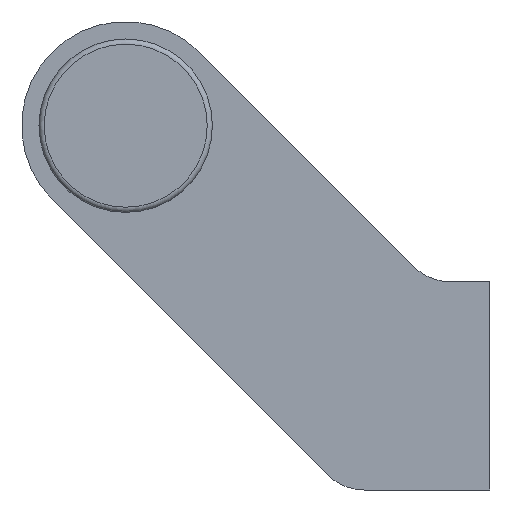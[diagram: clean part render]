
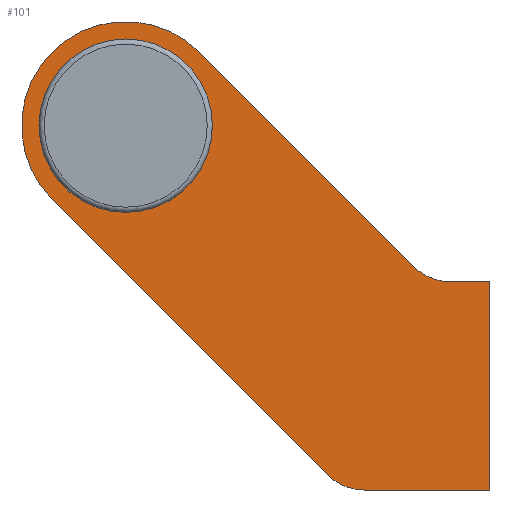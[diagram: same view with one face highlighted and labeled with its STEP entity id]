
A CAD part, left-side view. The second image highlights one B-rep face of the part: STEP entity #101.
In plain terms, the highlighted planar face has unit normal (-1, 0, 0).
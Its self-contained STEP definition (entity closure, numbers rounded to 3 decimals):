
#101 = ADVANCED_FACE( '', ( #171, #172 ), #173, .F. );
#171 = FACE_BOUND( '', #254, .T. );
#172 = FACE_OUTER_BOUND( '', #255, .T. );
#173 = PLANE( '', #256 );
#254 = EDGE_LOOP( '', ( #458 ) );
#255 = EDGE_LOOP( '', ( #459, #460, #461, #462, #463, #464, #465, #466 ) );
#256 = AXIS2_PLACEMENT_3D( '', #467, #468, #469 );
#458 = ORIENTED_EDGE( '', *, *, #547, .T. );
#459 = ORIENTED_EDGE( '', *, *, #512, .F. );
#460 = ORIENTED_EDGE( '', *, *, #548, .F. );
#461 = ORIENTED_EDGE( '', *, *, #551, .F. );
#462 = ORIENTED_EDGE( '', *, *, #501, .F. );
#463 = ORIENTED_EDGE( '', *, *, #553, .F. );
#464 = ORIENTED_EDGE( '', *, *, #556, .T. );
#465 = ORIENTED_EDGE( '', *, *, #509, .F. );
#466 = ORIENTED_EDGE( '', *, *, #505, .F. );
#467 = CARTESIAN_POINT( '', ( -106., 42., 30. ) );
#468 = DIRECTION( '', ( 1., 0., 0. ) );
#469 = DIRECTION( '', ( 0., 0., -1. ) );
#501 = EDGE_CURVE( '', #566, #567, #568, .T. );
#505 = EDGE_CURVE( '', #574, #575, #576, .T. );
#509 = EDGE_CURVE( '', #575, #582, #583, .T. );
#512 = EDGE_CURVE( '', #587, #574, #588, .T. );
#547 = EDGE_CURVE( '', #648, #648, #649, .T. );
#548 = EDGE_CURVE( '', #650, #587, #651, .T. );
#551 = EDGE_CURVE( '', #567, #650, #655, .T. );
#553 = EDGE_CURVE( '', #657, #566, #658, .T. );
#556 = EDGE_CURVE( '', #657, #582, #662, .T. );
#566 = VERTEX_POINT( '', #674 );
#567 = VERTEX_POINT( '', #675 );
#568 = LINE( '', #676, #677 );
#574 = VERTEX_POINT( '', #686 );
#575 = VERTEX_POINT( '', #687 );
#576 = CIRCLE( '', #688, 12. );
#582 = VERTEX_POINT( '', #696 );
#583 = LINE( '', #697, #698 );
#587 = VERTEX_POINT( '', #704 );
#588 = LINE( '', #705, #706 );
#648 = VERTEX_POINT( '', #786 );
#649 = CIRCLE( '', #787, 10. );
#650 = VERTEX_POINT( '', #788 );
#651 = CIRCLE( '', #789, 6. );
#655 = LINE( '', #794, #795 );
#657 = VERTEX_POINT( '', #798 );
#658 = LINE( '', #799, #800 );
#662 = CIRCLE( '', #806, 6. );
#674 = CARTESIAN_POINT( '', ( -106., 0., 12. ) );
#675 = CARTESIAN_POINT( '', ( -106., 0., -12. ) );
#676 = CARTESIAN_POINT( '', ( -106., 0., 12. ) );
#677 = VECTOR( '', #819, 1000. );
#686 = CARTESIAN_POINT( '', ( -106., 50.486, 21.515 ) );
#687 = CARTESIAN_POINT( '', ( -106., 33.515, 38.486 ) );
#688 = AXIS2_PLACEMENT_3D( '', #823, #824, #825 );
#696 = CARTESIAN_POINT( '', ( -106., 8.782, 13.757 ) );
#697 = CARTESIAN_POINT( '', ( -106., 33.515, 38.486 ) );
#698 = VECTOR( '', #831, 1000. );
#704 = CARTESIAN_POINT( '', ( -106., 18.733, -10.242 ) );
#705 = CARTESIAN_POINT( '', ( -106., 18.733, -10.242 ) );
#706 = VECTOR( '', #834, 1000. );
#786 = CARTESIAN_POINT( '', ( -106., 42., 20. ) );
#787 = AXIS2_PLACEMENT_3D( '', #897, #898, #899 );
#788 = CARTESIAN_POINT( '', ( -106., 14.49, -12. ) );
#789 = AXIS2_PLACEMENT_3D( '', #900, #901, #902 );
#794 = CARTESIAN_POINT( '', ( -106., 0., -12. ) );
#795 = VECTOR( '', #907, 1000. );
#798 = CARTESIAN_POINT( '', ( -106., 4.54, 12. ) );
#799 = CARTESIAN_POINT( '', ( -106., 4.54, 12. ) );
#800 = VECTOR( '', #909, 1000. );
#806 = AXIS2_PLACEMENT_3D( '', #912, #913, #914 );
#819 = DIRECTION( '', ( 0., 0., -1. ) );
#823 = CARTESIAN_POINT( '', ( -106., 42., 30. ) );
#824 = DIRECTION( '', ( 1., 0., 0. ) );
#825 = DIRECTION( '', ( 0., 0., -1. ) );
#831 = DIRECTION( '', ( 0., -0.707, -0.707 ) );
#834 = DIRECTION( '', ( 0., 0.707, 0.707 ) );
#897 = CARTESIAN_POINT( '', ( -106., 42., 30. ) );
#898 = DIRECTION( '', ( 1., 0., 0. ) );
#899 = DIRECTION( '', ( 0., 0., -1. ) );
#900 = CARTESIAN_POINT( '', ( -106., 14.49, -6. ) );
#901 = DIRECTION( '', ( 1., 0., 0. ) );
#902 = DIRECTION( '', ( 0., 0., -1. ) );
#907 = DIRECTION( '', ( 0., 1., 0. ) );
#909 = DIRECTION( '', ( 0., -1., 0. ) );
#912 = CARTESIAN_POINT( '', ( -106., 4.54, 18. ) );
#913 = DIRECTION( '', ( 1., 0., 0. ) );
#914 = DIRECTION( '', ( 0., 0., -1. ) );
